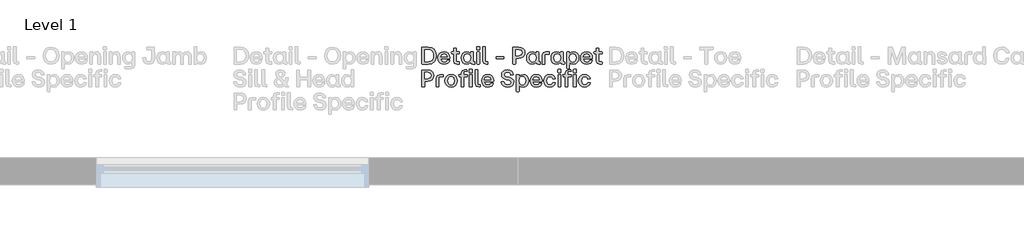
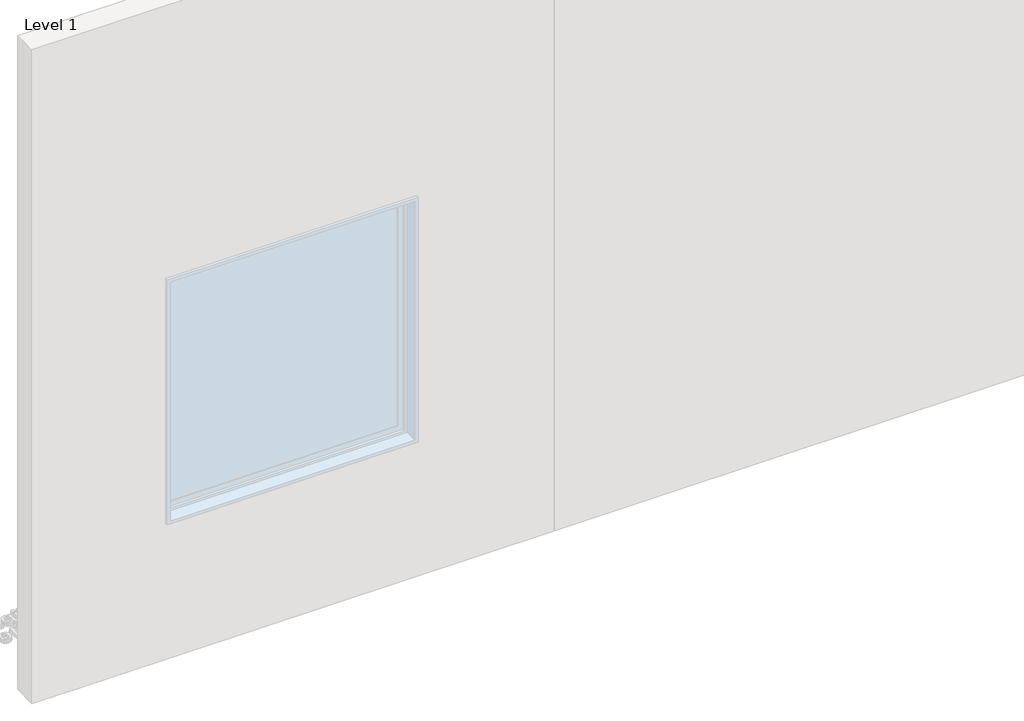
# One storey, part 45 of 64: 1 proxy.
"""IFC4 building model written with IfcOpenShell, lengths in millimetres."""

from ifc_helpers import new_model, si_unit, origin, origin_with_axes, place, context, project, spatial, polyline, outline, extrude, element, save

model = new_model("IFC4")

# Units and contexts
model_context = context("Model", 3, world=origin())
ifc_project = project(units=[si_unit("LENGTHUNIT", "METRE", prefix="MILLI")], contexts=[model_context])

# Site, building, storey
site = spatial("IfcSite", under=ifc_project)
building = spatial("IfcBuilding", under=site)
storey = spatial("IfcBuildingStorey", under=building, Name="Level 1", Elevation=0.0)

# Proxy
placement = place(None, origin())
element("IfcBuildingElementProxy", 1, Name="90mm", ObjectType="90mm", at=placement, inside=storey, context=model_context, shape_type="SweptSolid", body=[
    extrude(outline(polyline([(16110.2926176, -6500.0), (16108.9872124, -6498.7448027), (16108.9872124, -6411.3077612), (16142.5511873, -6410.002356), (16160.5475781, -6413.0054155), (16174.1193986, -6422.0145938), (16182.63905, -6436.3583606), (16185.4789338, -6455.3651852), (16182.648464, -6474.2025582), (16174.1570545, -6488.2890095), (16160.594648, -6497.0722524), (16142.5511873, -6500.0), (16110.2926176, -6500.0)]), holes=[polyline([(16123.7985402, -6487.3727155), (16141.6725492, -6487.3727155), (16153.8950326, -6485.311054), (16162.9481429, -6479.1260695), (16168.5494607, -6469.0625254), (16170.4165666, -6455.3651852), (16168.5431847, -6441.5109454), (16162.923039, -6431.1775339), (16153.8636527, -6424.7477859), (16141.6725492, -6422.6045366), (16123.7985402, -6422.6045366), (16123.7985402, -6487.3727155)])]), origin_with_axes(), (0.0, 0.0, 1.0), 20.0),
    extrude(outline(polyline([(16227.628458, -6500.7531184), (16214.0409476, -6498.4843493), (16203.5035666, -6491.6780421), (16196.7443293, -6481.0622112), (16194.4912502, -6467.3648711), (16196.7349153, -6453.5012173), (16203.4659107, -6442.7881086), (16213.9938777, -6435.9347315), (16227.628458, -6433.6502725), (16240.1584647, -6435.9033516), (16249.7324819, -6442.6625889), (16255.8044987, -6453.3129377), (16257.8285043, -6467.2393514), (16257.8285043, -6470.6785919), (16256.573307, -6472.009101), (16209.1268503, -6472.009101), (16214.6497183, -6484.6865934), (16227.628458, -6489.2053035), (16238.0465953, -6486.9082925), (16243.4439436, -6480.4691305), (16244.8246606, -6479.4147648), (16256.1967478, -6479.4147648), (16254.1633282, -6488.7314665), (16247.8120301, -6495.1925945), (16238.8248176, -6499.3629874), (16227.628458, -6500.7531184)]), holes=[polyline([(16209.2523701, -6461.5909637), (16243.8205028, -6461.5909637), (16239.0633051, -6449.6289337), (16227.628458, -6445.2733992), (16214.8631018, -6449.4155502), (16209.2523701, -6461.5909637)])]), origin_with_axes(), (0.0, 0.0, 1.0), 20.0),
    extrude(outline(polyline([(16296.6140998, -6500.0), (16282.731618, -6495.2302504), (16277.9618684, -6481.3477686), (16277.9618684, -6445.7754781), (16266.7906127, -6445.7754781), (16265.4852076, -6435.7339), (16266.7906127, -6434.4787027), (16277.9618684, -6434.4787027), (16277.9618684, -6416.45407), (16279.2170657, -6415.1486648), (16290.9657121, -6415.1486648), (16292.2209094, -6416.45407), (16292.2209094, -6434.4787027), (16308.0363949, -6434.4787027), (16309.3418001, -6435.7339), (16309.3418001, -6444.444969), (16292.2209094, -6445.7754781), (16292.2209094, -6488.7032246), (16308.0363949, -6488.7032246), (16309.3418001, -6489.9584219), (16309.3418001, -6498.7448027), (16308.0363949, -6500.0), (16296.6140998, -6500.0)])), origin_with_axes(), (0.0, 0.0, 1.0), 20.0),
    extrude(outline(polyline([(16347.2738615, -6500.7531184), (16335.3243835, -6498.4843493), (16326.0861316, -6491.6780421), (16320.1741525, -6481.0622112), (16318.2034928, -6467.3648711), (16320.1741525, -6453.5325972), (16326.0861316, -6442.8132125), (16335.3243835, -6435.9410075), (16347.2738615, -6433.6502725), (16359.1856835, -6436.5372262), (16368.160344, -6444.444969), (16368.7377347, -6435.7339), (16369.992932, -6434.4787027), (16381.6662665, -6434.4787027), (16382.9716717, -6435.7339), (16382.9716717, -6488.7032246), (16390.0760882, -6488.7032246), (16391.3312855, -6489.9584219), (16391.3312855, -6498.7448027), (16390.0760882, -6500.0), (16380.536589, -6500.0), (16372.1581473, -6497.6465051), (16369.3653333, -6490.5860205), (16359.7254183, -6497.8661646), (16347.2738615, -6500.7531184)]), holes=[polyline([(16332.7135732, -6467.3648711), (16337.6716024, -6483.3686362), (16343.5365116, -6487.7461367), (16351.2151809, -6489.2053035), (16358.7714684, -6487.7524127), (16364.470064, -6483.3937402), (16369.2398136, -6467.3648711), (16364.4324081, -6451.1728263), (16358.7243985, -6446.748256), (16351.2151809, -6445.2733992), (16343.5365116, -6446.748256), (16337.6716024, -6451.1728263), (16332.7135732, -6467.3648711)])]), origin_with_axes(), (0.0, 0.0, 1.0), 20.0),
    extrude(outline(polyline([(16403.6824266, -6500.0), (16402.3770214, -6498.7448027), (16402.3770214, -6435.7339), (16403.6824266, -6434.4787027), (16415.3557612, -6434.4787027), (16416.6109584, -6435.7339), (16416.6109584, -6498.7448027), (16415.3557612, -6500.0), (16403.6824266, -6500.0)])), origin_with_axes(), (0.0, 0.0, 1.0), 20.0),
    extrude(outline(polyline([(16401.3728636, -6421.8514182), (16401.3728636, -6407.9940404), (16402.6280609, -6406.6635313), (16416.4854387, -6406.6635313), (16417.8159478, -6421.8514182), (16416.4854387, -6423.1066155), (16402.6280609, -6423.1066155), (16401.3728636, -6421.8514182)])), origin_with_axes(), (0.0, 0.0, 1.0), 20.0),
    extrude(outline(polyline([(16451.5305464, -6500.0), (16437.6731686, -6495.2302504), (16432.903419, -6481.3477686), (16432.903419, -6408.7471587), (16445.8821587, -6407.4166496), (16447.137356, -6408.7471587), (16447.137356, -6488.7032246), (16459.1370418, -6488.7032246), (16460.3922391, -6489.9584219), (16460.3922391, -6498.7448027), (16459.1370418, -6500.0), (16451.5305464, -6500.0)])), origin_with_axes(), (0.0, 0.0, 1.0), 20.0),
    extrude(outline(polyline([(16505.1776775, -6472.887739), (16503.9224803, -6471.5572299), (16503.9224803, -6461.5909637), (16505.1776775, -6460.2604546), (16543.7875455, -6460.2604546), (16545.0427427, -6461.5909637), (16545.0427427, -6471.5572299), (16543.7875455, -6472.887739), (16505.1776775, -6472.887739)])), origin_with_axes(), (0.0, 0.0, 1.0), 20.0),
    extrude(outline(polyline([(16595.5016728, -6500.0), (16594.1962677, -6498.7448027), (16594.1962677, -6411.3077612), (16625.3251599, -6410.002356), (16639.2264696, -6411.9008419), (16649.5504671, -6417.5962995), (16655.9519732, -6426.7906194), (16658.0858085, -6439.1856924), (16655.9519732, -6451.5807655), (16649.5504671, -6460.7750854), (16639.2264696, -6466.470543), (16625.3251599, -6468.3690289), (16609.0075954, -6468.3690289), (16609.0075954, -6498.7448027), (16607.6770863, -6500.0), (16595.5016728, -6500.0)]), holes=[polyline([(16609.0075954, -6455.7417444), (16625.3251599, -6455.7417444), (16638.8059785, -6451.6623533), (16643.1991689, -6439.1731405), (16638.8059785, -6426.6839277), (16625.3251599, -6422.6045366), (16609.0075954, -6422.6045366), (16609.0075954, -6455.7417444)])]), origin_with_axes(), (0.0, 0.0, 1.0), 20.0),
    extrude(outline(polyline([(16695.9174541, -6500.7531184), (16683.9679762, -6498.4843493), (16674.7297243, -6491.6780421), (16668.8177452, -6481.0622112), (16666.8470854, -6467.3648711), (16668.8177452, -6453.5325972), (16674.7297243, -6442.8132125), (16683.9679762, -6435.9410075), (16695.9174541, -6433.6502725), (16707.8292762, -6436.5372262), (16716.8039366, -6444.444969), (16717.3813274, -6435.7339), (16718.6365247, -6434.4787027), (16730.3098592, -6434.4787027), (16731.6152644, -6435.7339), (16731.6152644, -6488.7032246), (16738.7196809, -6488.7032246), (16739.9748782, -6489.9584219), (16739.9748782, -6498.7448027), (16738.7196809, -6500.0), (16729.1801817, -6500.0), (16720.8017399, -6497.6465051), (16718.008926, -6490.5860205), (16708.369011, -6497.8661646), (16695.9174541, -6500.7531184)]), holes=[polyline([(16681.3571658, -6467.3648711), (16686.315195, -6483.3686362), (16692.1801043, -6487.7461367), (16699.8587735, -6489.2053035), (16707.4150611, -6487.7524127), (16713.1136567, -6483.3937402), (16717.8834063, -6467.3648711), (16713.0760008, -6451.1728263), (16707.3679912, -6446.748256), (16699.8587735, -6445.2733992), (16692.1801043, -6446.748256), (16686.315195, -6451.1728263), (16681.3571658, -6467.3648711)])]), origin_with_axes(), (0.0, 0.0, 1.0), 20.0),
    extrude(outline(polyline([(16751.6482128, -6500.0), (16750.3930155, -6498.7448027), (16750.3930155, -6453.0556222), (16755.1627651, -6439.2107964), (16769.0201429, -6434.4787027), (16787.2958151, -6434.4787027), (16788.5510124, -6435.7339), (16788.5510124, -6445.2733992), (16787.2958151, -6446.5285965), (16764.6269525, -6446.5285965), (16764.6269525, -6498.7448027), (16763.3717552, -6500.0), (16751.6482128, -6500.0)])), origin_with_axes(), (0.0, 0.0, 1.0), 20.0),
    extrude(outline(polyline([(16826.0563067, -6500.7531184), (16814.1068287, -6498.4843493), (16804.8685768, -6491.6780421), (16798.9565977, -6481.0622112), (16796.985938, -6467.3648711), (16798.9565977, -6453.5325972), (16804.8685768, -6442.8132125), (16814.1068287, -6435.9410075), (16826.0563067, -6433.6502725), (16837.9681288, -6436.5372262), (16846.9427892, -6444.444969), (16847.52018, -6435.7339), (16848.7753772, -6434.4787027), (16860.4487118, -6434.4787027), (16861.7541169, -6435.7339), (16861.7541169, -6488.7032246), (16868.8585335, -6488.7032246), (16870.1137307, -6489.9584219), (16870.1137307, -6498.7448027), (16868.8585335, -6500.0), (16859.3190343, -6500.0), (16850.9405925, -6497.6465051), (16848.1477786, -6490.5860205), (16838.5078636, -6497.8661646), (16826.0563067, -6500.7531184)]), holes=[polyline([(16811.4960184, -6467.3648711), (16816.4540476, -6483.3686362), (16822.3189568, -6487.7461367), (16829.9976261, -6489.2053035), (16837.5539137, -6487.7524127), (16843.2525092, -6483.3937402), (16848.0222589, -6467.3648711), (16843.2148533, -6451.1728263), (16837.5068438, -6446.748256), (16829.9976261, -6445.2733992), (16822.3189568, -6446.748256), (16816.4540476, -6451.1728263), (16811.4960184, -6467.3648711)])]), origin_with_axes(), (0.0, 0.0, 1.0), 20.0),
    extrude(outline(polyline([(16882.4648718, -6524.4010349), (16881.1594667, -6523.1458376), (16881.1594667, -6435.7339), (16882.4648718, -6434.4787027), (16893.5106078, -6434.4787027), (16894.7658051, -6435.7339), (16894.7658051, -6444.3194493), (16904.4057201, -6436.5372262), (16916.8572769, -6433.6502725), (16928.8067549, -6435.9253176), (16938.0450068, -6442.7504527), (16943.9569859, -6453.3913875), (16945.9276456, -6467.1138316), (16943.9569859, -6480.9210016), (16938.0450068, -6491.6152823), (16928.8067549, -6498.4686593), (16916.8572769, -6500.7531184), (16904.9454549, -6497.8661646), (16895.9707944, -6489.9584219), (16895.3934037, -6523.1458376), (16894.1382064, -6524.4010349), (16882.4648718, -6524.4010349)]), holes=[polyline([(16894.8913248, -6467.1138316), (16899.6987303, -6483.3058764), (16905.4067399, -6487.7304467), (16912.9159575, -6489.2053035), (16920.5946268, -6487.7304467), (16926.459536, -6483.3058764), (16931.4175652, -6467.1138316), (16926.459536, -6451.1100665), (16920.5946268, -6446.732566), (16912.9159575, -6445.2733992), (16905.35967, -6446.723152), (16899.6610744, -6451.0724106), (16894.8913248, -6467.1138316)])]), origin_with_axes(), (0.0, 0.0, 1.0), 20.0),
    extrude(outline(polyline([(16987.5750909, -6500.7531184), (16973.9875805, -6498.4843493), (16963.4501995, -6491.6780421), (16956.6909622, -6481.0622112), (16954.4378831, -6467.3648711), (16956.6815482, -6453.5012173), (16963.4125435, -6442.7881086), (16973.9405106, -6435.9347315), (16987.5750909, -6433.6502725), (17000.1050976, -6435.9033516), (17009.6791148, -6442.6625889), (17015.7511316, -6453.3129377), (17017.7751371, -6467.2393514), (17017.7751371, -6470.6785919), (17016.5199399, -6472.009101), (16969.0734832, -6472.009101), (16974.5963512, -6484.6865934), (16987.5750909, -6489.2053035), (16997.9932282, -6486.9082925), (17003.3905765, -6480.4691305), (17004.7712935, -6479.4147648), (17016.1433807, -6479.4147648), (17014.1099611, -6488.7314665), (17007.758663, -6495.1925945), (16998.7714505, -6499.3629874), (16987.5750909, -6500.7531184)]), holes=[polyline([(16969.1990029, -6461.5909637), (17003.7671357, -6461.5909637), (16999.009938, -6449.6289337), (16987.5750909, -6445.2733992), (16974.8097347, -6449.4155502), (16969.1990029, -6461.5909637)])]), origin_with_axes(), (0.0, 0.0, 1.0), 20.0),
    extrude(outline(polyline([(17056.5607327, -6500.0), (17042.6782509, -6495.2302504), (17037.9085013, -6481.3477686), (17037.9085013, -6445.7754781), (17026.7372456, -6445.7754781), (17025.4318405, -6435.7339), (17026.7372456, -6434.4787027), (17037.9085013, -6434.4787027), (17037.9085013, -6416.45407), (17039.1636986, -6415.1486648), (17050.912345, -6415.1486648), (17052.1675422, -6416.45407), (17052.1675422, -6434.4787027), (17067.9830278, -6434.4787027), (17069.288433, -6435.7339), (17069.288433, -6444.444969), (17052.1675422, -6445.7754781), (17052.1675422, -6488.7032246), (17067.9830278, -6488.7032246), (17069.288433, -6489.9584219), (17069.288433, -6498.7448027), (17067.9830278, -6500.0), (17056.5607327, -6500.0)])), origin_with_axes(), (0.0, 0.0, 1.0), 20.0),
    extrude(outline(polyline([(16110.2926176, -6622.13305), (16108.9872124, -6620.8778528), (16108.9872124, -6533.4408112), (16140.1161046, -6532.135406), (16154.0174144, -6534.0338919), (16164.3414119, -6539.7293495), (16170.7429179, -6548.9236695), (16172.8767533, -6561.3187425), (16170.7429179, -6573.7138155), (16164.3414119, -6582.9081354), (16154.0174144, -6588.603593), (16140.1161046, -6590.5020789), (16123.7985402, -6590.5020789), (16123.7985402, -6620.8778528), (16122.4680311, -6622.13305), (16110.2926176, -6622.13305)]), holes=[polyline([(16123.7985402, -6577.8747944), (16140.1161046, -6577.8747944), (16153.5969233, -6573.7954033), (16157.9901137, -6561.3061905), (16153.5969233, -6548.8169777), (16140.1161046, -6544.7375866), (16123.7985402, -6544.7375866), (16123.7985402, -6577.8747944)])]), origin_with_axes(), (0.0, 0.0, 1.0), 20.0),
    extrude(outline(polyline([(16186.1065325, -6622.13305), (16184.8513352, -6620.8778528), (16184.8513352, -6575.1886723), (16189.6210848, -6561.3438464), (16203.4784626, -6556.6117527), (16221.7541348, -6556.6117527), (16223.0093321, -6557.86695), (16223.0093321, -6567.4064492), (16221.7541348, -6568.6616465), (16199.0852722, -6568.6616465), (16199.0852722, -6620.8778528), (16197.8300749, -6622.13305), (16186.1065325, -6622.13305)])), origin_with_axes(), (0.0, 0.0, 1.0), 20.0),
    extrude(outline(polyline([(16264.2049064, -6622.8861684), (16250.9782652, -6620.5797434), (16240.519334, -6613.6604685), (16233.7130268, -6603.0069817), (16231.4442577, -6589.4979211), (16233.7193028, -6575.9009967), (16240.5444379, -6565.1345422), (16251.0096451, -6558.1211274), (16264.2049064, -6555.7833225), (16277.5570673, -6558.1211274), (16288.0913103, -6565.1345422), (16294.9352734, -6575.9009967), (16297.2165945, -6589.4979211), (16294.9352734, -6603.0069817), (16288.0913103, -6613.6604685), (16277.5570673, -6620.5797434), (16264.2049064, -6622.8861684)]), holes=[polyline([(16245.9543381, -6589.4979211), (16250.8119515, -6605.5267902), (16256.588997, -6609.8854627), (16264.2049064, -6611.3383535), (16271.9024036, -6609.8791867), (16277.7735888, -6605.5016862), (16282.731618, -6589.4979211), (16277.7986928, -6573.3058764), (16271.9337835, -6568.881306), (16264.2049064, -6567.4064492), (16256.588997, -6568.881306), (16250.8119515, -6573.3058764), (16245.9543381, -6589.4979211)])]), origin_with_axes(), (0.0, 0.0, 1.0), 20.0),
    extrude(outline(polyline([(16319.3833782, -6622.13305), (16318.1281809, -6620.8778528), (16318.1281809, -6567.9085281), (16306.9569253, -6567.9085281), (16305.6515201, -6557.86695), (16306.9569253, -6556.6117527), (16318.1281809, -6556.6117527), (16318.1281809, -6548.201931), (16322.8979305, -6534.3194493), (16336.7804123, -6529.5496997), (16348.2027074, -6529.5496997), (16349.5081126, -6539.5912778), (16332.3872219, -6540.9217869), (16332.3872219, -6556.6117527), (16348.2027074, -6556.6117527), (16349.5081126, -6557.86695), (16349.5081126, -6566.578019), (16332.3872219, -6567.9085281), (16332.3872219, -6620.8778528), (16331.1320246, -6622.13305), (16319.3833782, -6622.13305)])), origin_with_axes(), (0.0, 0.0, 1.0), 20.0),
    extrude(outline(polyline([(16361.3069669, -6543.9844682), (16361.3069669, -6530.1270904), (16362.5621642, -6528.7965813), (16376.4948538, -6528.7965813), (16377.7500511, -6530.1270904), (16377.7500511, -6543.9844682), (16376.4948538, -6545.2396655), (16362.5621642, -6545.2396655), (16361.3069669, -6543.9844682)])), origin_with_axes(), (0.0, 0.0, 1.0), 20.0),
    extrude(outline(polyline([(16362.3111247, -6620.8778528), (16362.3111247, -6557.86695), (16363.6416338, -6556.6117527), (16375.3149684, -6556.6117527), (16376.6203735, -6557.86695), (16376.6203735, -6620.8778528), (16375.3149684, -6622.13305), (16363.6416338, -6622.13305), (16362.3111247, -6620.8778528)])), origin_with_axes(), (0.0, 0.0, 1.0), 20.0),
    extrude(outline(polyline([(16411.3642339, -6622.13305), (16397.506856, -6617.3633004), (16392.7371064, -6603.4808186), (16392.7371064, -6530.8802088), (16405.7158462, -6529.5496997), (16406.9710434, -6530.8802088), (16406.9710434, -6610.8362746), (16418.9707293, -6610.8362746), (16420.2259266, -6612.0914719), (16420.2259266, -6620.8778528), (16418.9707293, -6622.13305), (16411.3642339, -6622.13305)])), origin_with_axes(), (0.0, 0.0, 1.0), 20.0),
    extrude(outline(polyline([(16460.5930707, -6622.8861684), (16447.0055602, -6620.6173993), (16436.4681792, -6613.8110921), (16429.7089419, -6603.1952613), (16427.4558628, -6589.4979211), (16429.6995279, -6575.6342673), (16436.4305233, -6564.9211586), (16446.9584903, -6558.0677815), (16460.5930707, -6555.7833225), (16473.1230774, -6558.0364016), (16482.6970945, -6564.7956389), (16488.7691113, -6575.4459877), (16490.7931169, -6589.3724014), (16490.7931169, -6592.8116419), (16489.5379196, -6594.142151), (16442.0914629, -6594.142151), (16447.6143309, -6606.8196434), (16460.5930707, -6611.3383535), (16471.011208, -6609.0413425), (16476.4085562, -6602.6021806), (16477.7892732, -6601.5478148), (16489.1613604, -6601.5478148), (16487.1279409, -6610.8645166), (16480.7766427, -6617.3256445), (16471.7894303, -6621.4960374), (16460.5930707, -6622.8861684)]), holes=[polyline([(16442.2169827, -6583.7240137), (16476.7851154, -6583.7240137), (16472.0279177, -6571.7619837), (16460.5930707, -6567.4064492), (16447.8277145, -6571.5486002), (16442.2169827, -6583.7240137)])]), origin_with_axes(), (0.0, 0.0, 1.0), 20.0),
    extrude(outline(polyline([(16566.8831752, -6622.8861684), (16553.1136611, -6621.0347524), (16542.4319324, -6615.4805045), (16535.1706162, -6606.5058441), (16531.6623399, -6594.3931904), (16544.917223, -6592.9371616), (16546.2226282, -6594.142151), (16552.4107507, -6606.6941236), (16566.8831752, -6610.5852352), (16579.3974919, -6607.007923), (16583.8785461, -6597.0793126), (16580.7782089, -6588.8326665), (16570.3977275, -6584.7281715), (16558.5235614, -6582.644544), (16547.5186193, -6579.3904451), (16539.6579465, -6574.0715467), (16534.9415427, -6566.6878488), (16533.3694082, -6557.2393514), (16535.3839998, -6546.397585), (16541.4277746, -6538.2231128), (16551.0802416, -6533.0924939), (16563.9209096, -6531.3822877), (16576.6548859, -6533.1144599), (16586.5897722, -6538.3109766), (16593.3803895, -6546.6643144), (16596.6815583, -6557.86695), (16583.501987, -6559.2978749), (16582.0710621, -6557.86695), (16576.2594987, -6547.1601173), (16563.9209096, -6543.7334288), (16552.1597112, -6546.8714219), (16548.1054241, -6556.034362), (16551.7203922, -6564.732879), (16563.0422715, -6569.2892451), (16574.8411258, -6571.3477686), (16585.6609263, -6574.5171417), (16593.0163822, -6579.6069666), (16597.2338451, -6586.9373187), (16598.639666, -6596.8282731), (16596.5277966, -6607.7422134), (16590.1921884, -6615.9825834), (16580.1411963, -6621.1602721), (16566.8831752, -6622.8861684)])), origin_with_axes(), (0.0, 0.0, 1.0), 20.0),
    extrude(outline(polyline([(16614.1539042, -6646.5340849), (16612.848499, -6645.2788876), (16612.848499, -6557.86695), (16614.1539042, -6556.6117527), (16625.1996401, -6556.6117527), (16626.4548374, -6557.86695), (16626.4548374, -6566.4524993), (16636.0947524, -6558.6702762), (16648.5463093, -6555.7833225), (16660.4957873, -6558.0583676), (16669.7340392, -6564.8835027), (16675.6460183, -6575.5244375), (16677.616678, -6589.2468816), (16675.6460183, -6603.0540516), (16669.7340392, -6613.7483323), (16660.4957873, -6620.6017094), (16648.5463093, -6622.8861684), (16636.6344872, -6619.9992147), (16627.6598268, -6612.0914719), (16627.082436, -6645.2788876), (16625.8272388, -6646.5340849), (16614.1539042, -6646.5340849)]), holes=[polyline([(16626.5803571, -6589.2468816), (16631.3877627, -6605.4389264), (16637.0957722, -6609.8634967), (16644.6049899, -6611.3383535), (16652.2836592, -6609.8634967), (16658.1485684, -6605.4389264), (16663.1065976, -6589.2468816), (16658.1485684, -6573.2431165), (16652.2836592, -6568.865616), (16644.6049899, -6567.4064492), (16637.0487023, -6568.856202), (16631.3501068, -6573.2054606), (16626.5803571, -6589.2468816)])]), origin_with_axes(), (0.0, 0.0, 1.0), 20.0),
    extrude(outline(polyline([(16719.2641233, -6622.8861684), (16705.6766129, -6620.6173993), (16695.1392318, -6613.8110921), (16688.3799945, -6603.1952613), (16686.1269155, -6589.4979211), (16688.3705806, -6575.6342673), (16695.1015759, -6564.9211586), (16705.629543, -6558.0677815), (16719.2641233, -6555.7833225), (16731.79413, -6558.0364016), (16741.3681471, -6564.7956389), (16747.4401639, -6575.4459877), (16749.4641695, -6589.3724014), (16749.4641695, -6592.8116419), (16748.2089722, -6594.142151), (16700.7625156, -6594.142151), (16706.2853836, -6606.8196434), (16719.2641233, -6611.3383535), (16729.6822606, -6609.0413425), (16735.0796088, -6602.6021806), (16736.4603258, -6601.5478148), (16747.8324131, -6601.5478148), (16745.7989935, -6610.8645166), (16739.4476953, -6617.3256445), (16730.4604829, -6621.4960374), (16719.2641233, -6622.8861684)]), holes=[polyline([(16700.8880353, -6583.7240137), (16735.456168, -6583.7240137), (16730.6989704, -6571.7619837), (16719.2641233, -6567.4064492), (16706.4987671, -6571.5486002), (16700.8880353, -6583.7240137)])]), origin_with_axes(), (0.0, 0.0, 1.0), 20.0),
    extrude(outline(polyline([(16791.4379661, -6622.8861684), (16777.9445955, -6620.6173993), (16767.4385944, -6613.8110921), (16760.6793571, -6603.1952613), (16758.426278, -6589.4979211), (16760.710737, -6575.9009967), (16767.5641141, -6565.1345422), (16778.1014951, -6558.1211274), (16791.4379661, -6555.7833225), (16802.4209422, -6557.3303532), (16811.3704987, -6561.971445), (16817.6841409, -6569.1543114), (16820.7593742, -6578.3266654), (16808.1320897, -6579.7073824), (16801.7054797, -6570.1678832), (16791.4379661, -6567.4064492), (16783.680847, -6568.881306), (16777.8316277, -6573.3058764), (16772.9363584, -6589.4979211), (16777.8567317, -6605.5644461), (16783.7122269, -6609.8948767), (16791.4379661, -6611.3383535), (16802.019279, -6608.7024393), (16807.3789714, -6600.1670979), (16808.7596884, -6598.9621085), (16820.1317756, -6598.9621085), (16818.12346, -6609.4712476), (16811.7470579, -6616.6980459), (16802.7033616, -6621.3391377), (16791.4379661, -6622.8861684)])), origin_with_axes(), (0.0, 0.0, 1.0), 20.0),
    extrude(outline(polyline([(16835.8719493, -6622.13305), (16834.5665442, -6620.8778528), (16834.5665442, -6557.86695), (16835.8719493, -6556.6117527), (16847.5452839, -6556.6117527), (16848.8004812, -6557.86695), (16848.8004812, -6620.8778528), (16847.5452839, -6622.13305), (16835.8719493, -6622.13305)])), origin_with_axes(), (0.0, 0.0, 1.0), 20.0),
    extrude(outline(polyline([(16833.5623863, -6543.9844682), (16833.5623863, -6530.1270904), (16834.8175836, -6528.7965813), (16848.6749614, -6528.7965813), (16850.0054705, -6543.9844682), (16848.6749614, -6545.2396655), (16834.8175836, -6545.2396655), (16833.5623863, -6543.9844682)])), origin_with_axes(), (0.0, 0.0, 1.0), 20.0),
    extrude(outline(polyline([(16873.678491, -6622.13305), (16872.4232937, -6620.8778528), (16872.4232937, -6567.9085281), (16861.252038, -6567.9085281), (16859.9466329, -6557.86695), (16861.252038, -6556.6117527), (16872.4232937, -6556.6117527), (16872.4232937, -6548.201931), (16877.1930433, -6534.3194493), (16891.0755251, -6529.5496997), (16902.4978202, -6529.5496997), (16903.8032254, -6539.5912778), (16886.6823347, -6540.9217869), (16886.6823347, -6556.6117527), (16902.4978202, -6556.6117527), (16903.8032254, -6557.86695), (16903.8032254, -6566.578019), (16886.6823347, -6567.9085281), (16886.6823347, -6620.8778528), (16885.4271374, -6622.13305), (16873.678491, -6622.13305)])), origin_with_axes(), (0.0, 0.0, 1.0), 20.0),
    extrude(outline(polyline([(16915.6020797, -6543.9844682), (16915.6020797, -6530.1270904), (16916.8572769, -6528.7965813), (16930.7899666, -6528.7965813), (16932.0451639, -6530.1270904), (16932.0451639, -6543.9844682), (16930.7899666, -6545.2396655), (16916.8572769, -6545.2396655), (16915.6020797, -6543.9844682)])), origin_with_axes(), (0.0, 0.0, 1.0), 20.0),
    extrude(outline(polyline([(16916.6062375, -6620.8778528), (16916.6062375, -6557.86695), (16917.9367466, -6556.6117527), (16929.6100812, -6556.6117527), (16930.9154863, -6557.86695), (16930.9154863, -6620.8778528), (16929.6100812, -6622.13305), (16917.9367466, -6622.13305), (16916.6062375, -6620.8778528)])), origin_with_axes(), (0.0, 0.0, 1.0), 20.0),
    extrude(outline(polyline([(16976.2030037, -6622.8861684), (16962.7096331, -6620.6173993), (16952.203632, -6613.8110921), (16945.4443947, -6603.1952613), (16943.1913156, -6589.4979211), (16945.4757746, -6575.9009967), (16952.3291517, -6565.1345422), (16962.8665327, -6558.1211274), (16976.2030037, -6555.7833225), (16987.1859798, -6557.3303532), (16996.1355363, -6561.971445), (17002.4491785, -6569.1543114), (17005.5244118, -6578.3266654), (16992.8971273, -6579.7073824), (16986.4705173, -6570.1678832), (16976.2030037, -6567.4064492), (16968.4458846, -6568.881306), (16962.5966653, -6573.3058764), (16957.701396, -6589.4979211), (16962.6217693, -6605.5644461), (16968.4772645, -6609.8948767), (16976.2030037, -6611.3383535), (16986.7843166, -6608.7024393), (16992.144009, -6600.1670979), (16993.524726, -6598.9621085), (17004.8968132, -6598.9621085), (17002.8884976, -6609.4712476), (16996.5120955, -6616.6980459), (16987.4683992, -6621.3391377), (16976.2030037, -6622.8861684)])), origin_with_axes(), (0.0, 0.0, 1.0), 20.0),
])

save(model, "model.ifc")
